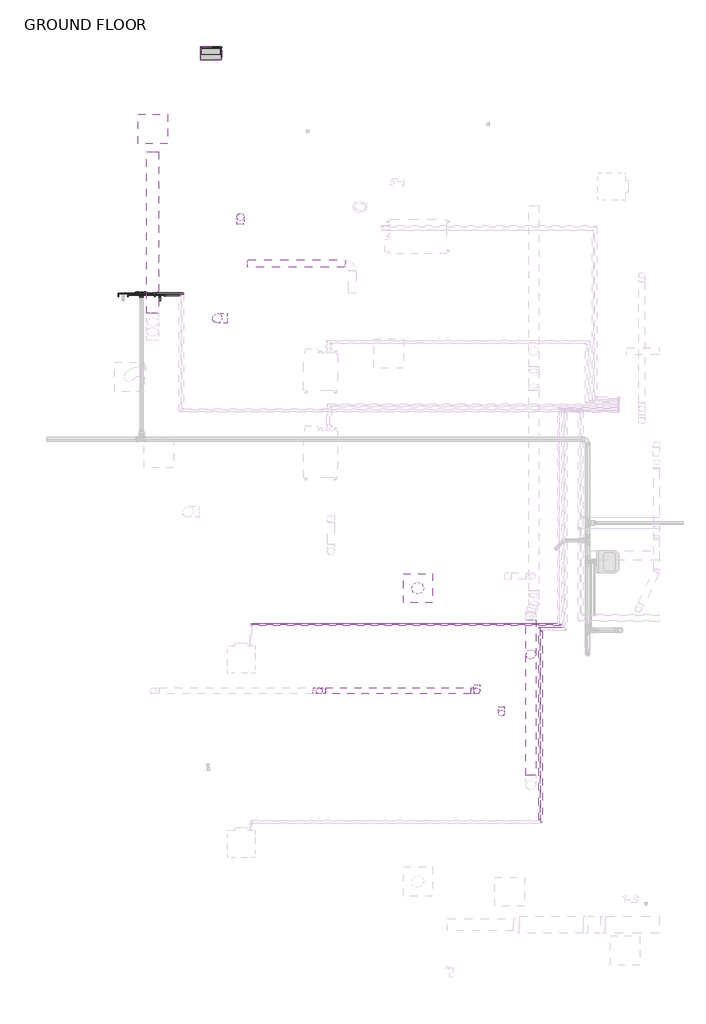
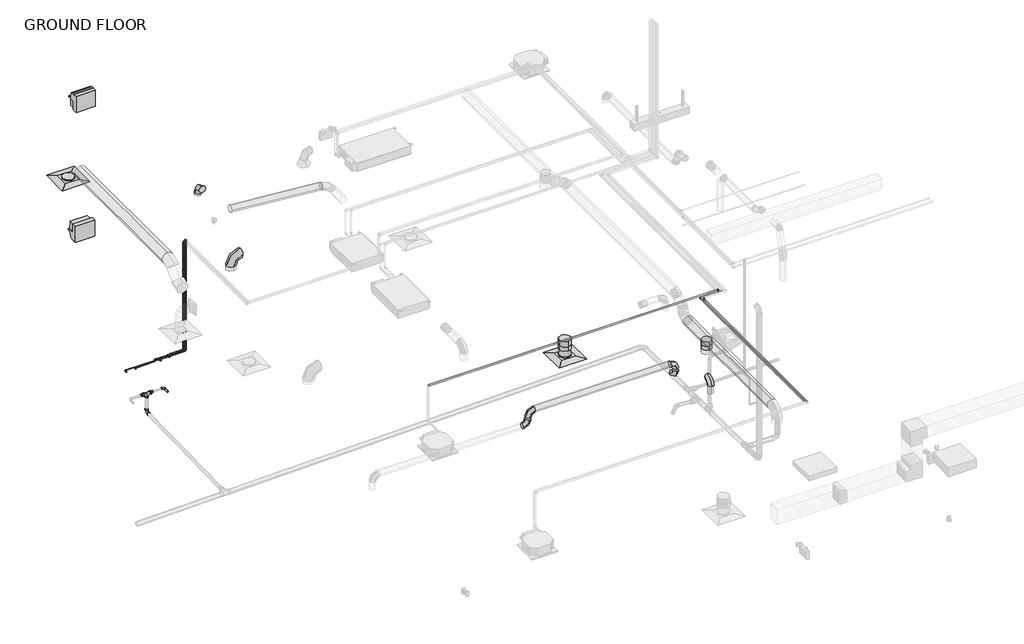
# One storey, part 11 of 22: 23 pipe fittings, 19 pipe segments, 11 duct segments, 9 duct fittings, 2 air terminals, 2 light fixtures.
"""IFC4 building model written with IfcOpenShell, lengths in millimetres."""

from ifc_helpers import new_model, si_unit, point, frame, frame_2d, origin, place, context, project, spatial, circle_curve, trimmed, segment, composite_curve, outline, extrude, transform, mapped, element, save
from components import air_terminal_a1f6e78c, round_elbow_1_d_a253342a, round_elbow_1_d_b37ad80b, round_elbow_1_d_c80420c1, round_takeoff_standard_37489045, round_takeoff_standard_1d5c4ba7, wall_pack_light_exterior_120v_ab60a804, bend_pvc_sch_40_dwv_standard_7031e9b3, bend_pvc_sch_40_dwv_standard_422c3456, bend_double_pvc_sch_40_dwv_standard_696d5b8f, elbow_generic_standard_787ffbaa, elbow_generic_standard_c06ac706, elbow_generic_standard_a088f956, reducer_pvc_sch_40_dwv_standard_1d7aeae1, reducer_pvc_sch_40_dwv_standard_ec22cfe8, tee_generic_standard_d345b28c, transition_generic_standard_19d9bb8b, transition_generic_standard_6299f23b

model = new_model("IFC4")

# Units and contexts
model_context = context("Model", 3, world=origin())
ifc_project = project(units=[si_unit("LENGTHUNIT", "METRE", prefix="MILLI")], contexts=[model_context])

# Site, building, storey
site = spatial("IfcSite", under=ifc_project)
building = spatial("IfcBuilding", under=site)
storey = spatial("IfcBuildingStorey", under=building, Name="GROUND FLOOR", Elevation=30480.0)

# Air terminals
placement = place(None, origin())
air_terminal_shape = air_terminal_a1f6e78c(model_context)
element("IfcAirTerminal", 1, ObjectType="Supply Diffuser - Rectangular Face Round Neck - Hosted : 24\"x24\" Face 10\" Neck - Hosted", at=placement, inside=storey, context=model_context, shape_type="MappedRepresentation", body=[
    mapped(air_terminal_shape, transform((-19120.4829607, 13294.7195005, 33020.0), x_axis=(-1.0, 0.0, 0.0), y_axis=(0.0, 1.0, 0.0), z_axis=(0.0, 0.0, -1.0))),
])
element("IfcAirTerminal", 2, ObjectType="Supply Diffuser - Rectangular Face Round Neck - Hosted : 24\"x24\" Face 10\" Neck - Hosted", at=placement, inside=storey, context=model_context, shape_type="MappedRepresentation", body=[
    mapped(air_terminal_shape, transform((-13605.5079607, 3749.0820005, 32715.2), x_axis=(-1.0, 0.0, 0.0), y_axis=(0.0, 1.0, 0.0), z_axis=(0.0, 0.0, -1.0))),
])

# Duct fittings
round_elbow_1_d_shape = round_elbow_1_d_a253342a(model_context)
element("IfcDuctFitting", 3, ObjectType="Round Elbow : 1 D", at=placement, inside=storey, context=model_context, shape_type="MappedRepresentation", body=[
    mapped(round_elbow_1_d_shape, transform((-17775.8704607, 9360.8945005, 33121.6), x_axis=(0.0, 0.0, 1.0), y_axis=(1.0, 0.0, 0.0), z_axis=(0.0, 1.0, 0.0))),
])
round_elbow_1_d_2_shape = round_elbow_1_d_b37ad80b(model_context)
element("IfcDuctFitting", 4, ObjectType="Round Elbow : 1 D", at=placement, inside=storey, context=model_context, shape_type="MappedRepresentation", body=[
    mapped(round_elbow_1_d_2_shape, transform((-17291.6829607, 11465.9195005, 33324.8), x_axis=(0.0, 0.0, 1.0), y_axis=(0.0, -1.0, 0.0), z_axis=(1.0, 0.0, 0.0))),
])
round_elbow_1_d_3_shape = round_elbow_1_d_c80420c1(model_context)
element("IfcDuctFitting", 5, ObjectType="Round Elbow : 1 D", at=placement, inside=storey, context=model_context, shape_type="MappedRepresentation", body=[
    mapped(round_elbow_1_d_3_shape, transform((-11866.4513201, 1153.5195005, 33121.6), x_axis=(0.0, 0.0, 1.0), y_axis=(0.0, 1.0, 0.0), z_axis=(-1.0, 0.0, 0.0))),
])
element("IfcDuctFitting", 6, ObjectType="Round Elbow : 1 D", at=placement, inside=storey, context=model_context, shape_type="MappedRepresentation", body=[
    mapped(round_elbow_1_d_3_shape, transform((-15656.5579607, 1613.8945005, 33121.6), x_axis=(1.0, 0.0, 0.0), y_axis=(0.0, 0.0, 1.0), z_axis=(0.0, -1.0, 0.0))),
])
element("IfcDuctFitting", 7, ObjectType="Round Elbow : 1 D", at=placement, inside=storey, context=model_context, shape_type="MappedRepresentation", body=[
    mapped(round_elbow_1_d_3_shape, transform((-15656.5579607, 1613.8945005, 33426.4), x_axis=(0.0, 0.0, 1.0), y_axis=(1.0, 0.0, 0.0), z_axis=(0.0, 1.0, 0.0))),
])
element("IfcDuctFitting", 8, ObjectType="Round Elbow : 1 D", at=placement, inside=storey, context=model_context, shape_type="MappedRepresentation", body=[
    mapped(round_elbow_1_d_3_shape, transform((-12379.8126806, 1613.8945005, 33426.4), x_axis=(1.0, 0.0, 0.0), y_axis=(0.0, 0.0, -1.0), z_axis=(0.0, 1.0, 0.0))),
])
element("IfcDuctFitting", 9, ObjectType="Round Elbow : 1 D", at=placement, inside=storey, context=model_context, shape_type="MappedRepresentation", body=[
    mapped(round_elbow_1_d_3_shape, transform((-12379.8126806, 1613.8945005, 33121.6), x_axis=(0.0, 0.0, -1.0), y_axis=(0.0, 1.0, 0.0), z_axis=(1.0, 0.0, 0.0))),
])
round_takeoff_standard_shape = round_takeoff_standard_37489045(model_context)
element("IfcDuctFitting", 10, ObjectType="Round Takeoff : Standard", at=placement, inside=storey, context=model_context, shape_type="MappedRepresentation", body=[
    mapped(round_takeoff_standard_shape, transform((-13605.5079607, 3749.0820005, 32998.8880493), x_axis=(0.0, 0.0, -1.0), y_axis=(1.0, 0.0, 0.0), z_axis=(0.0, -1.0, 0.0))),
])
round_takeoff_standard_2_shape = round_takeoff_standard_1d5c4ba7(model_context)
element("IfcDuctFitting", 11, ObjectType="Round Takeoff : Standard", at=placement, inside=storey, context=model_context, shape_type="MappedRepresentation", body=[
    mapped(round_takeoff_standard_2_shape, transform((-11256.8513201, 2372.7195005, 33020.0), x_axis=(0.0, 0.0, -1.0), y_axis=(0.0, -1.0, 0.0), z_axis=(-1.0, 0.0, 0.0))),
])

# Duct segments
element("IfcDuctSegment", 12, ObjectType="Taps / Short Radius", at=placement, inside=storey, context=model_context, shape_type="SweptSolid", body=[
    extrude(outline(composite_curve([segment(trimmed(circle_curve(frame_2d((-17775.8704607, 9360.8945005)), 101.6), [point((-17775.8704607, 9462.4945005))], [point((-17674.2704607, 9360.8945005))], False, "CARTESIAN"), True, "CONTINUOUS"), segment(trimmed(circle_curve(frame_2d((-17775.8704607, 9360.8945005)), 101.6), [point((-17674.2704607, 9360.8945005))], [point((-17775.8704607, 9259.2945005))], False, "CARTESIAN"), True, "CONTINUOUS"), segment(trimmed(circle_curve(frame_2d((-17775.8704607, 9360.8945005)), 101.6), [point((-17775.8704607, 9259.2945005))], [point((-17877.4704607, 9360.8945005))], False, "CARTESIAN"), True, "CONTINUOUS"), segment(trimmed(circle_curve(frame_2d((-17775.8704607, 9360.8945005)), 101.6), [point((-17877.4704607, 9360.8945005))], [point((-17775.8704607, 9462.4945005))], False, "CARTESIAN"), True, "CONTINUOUS")], self_intersect=False)), frame((0.0, 0.0, 32816.8), z_axis=(0.0, 0.0, 1.0), x_axis=(1.0, 0.0, 0.0)), (0.0, 0.0, 1.0), 101.6),
])
element("IfcDuctSegment", 13, ObjectType="Taps / Short Radius", at=placement, inside=storey, context=model_context, shape_type="SweptSolid", body=[
    extrude(outline(composite_curve([segment(trimmed(circle_curve(frame_2d((-17291.6829607, 11465.9195005)), 76.2), [point((-17367.8829607, 11465.9195005))], [point((-17291.6829607, 11542.1195005))], False, "CARTESIAN"), True, "CONTINUOUS"), segment(trimmed(circle_curve(frame_2d((-17291.6829607, 11465.9195005)), 76.2), [point((-17291.6829607, 11542.1195005))], [point((-17215.4829607, 11465.9195005))], False, "CARTESIAN"), True, "CONTINUOUS"), segment(trimmed(circle_curve(frame_2d((-17291.6829607, 11465.9195005)), 76.2), [point((-17215.4829607, 11465.9195005))], [point((-17291.6829607, 11389.7195005))], False, "CARTESIAN"), True, "CONTINUOUS"), segment(trimmed(circle_curve(frame_2d((-17291.6829607, 11465.9195005)), 76.2), [point((-17291.6829607, 11389.7195005))], [point((-17367.8829607, 11465.9195005))], False, "CARTESIAN"), True, "CONTINUOUS")], self_intersect=False)), frame((0.0, 0.0, 33121.6), z_axis=(0.0, 0.0, 1.0), x_axis=(1.0, 0.0, 0.0)), (0.0, 0.0, 1.0), 50.8),
])
element("IfcDuctSegment", 14, ObjectType="Taps / Short Radius", at=placement, inside=storey, context=model_context, shape_type="SweptSolid", body=[
    extrude(outline(composite_curve([segment(trimmed(circle_curve(frame_2d((-13605.5079607, 3749.0820005)), 127.0), [point((-13478.5079607, 3749.0820005))], [point((-13605.5079607, 3622.0820005))], False, "CARTESIAN"), True, "CONTINUOUS"), segment(trimmed(circle_curve(frame_2d((-13605.5079607, 3749.0820005)), 127.0), [point((-13605.5079607, 3622.0820005))], [point((-13732.5079607, 3749.0820005))], False, "CARTESIAN"), True, "CONTINUOUS"), segment(trimmed(circle_curve(frame_2d((-13605.5079607, 3749.0820005)), 127.0), [point((-13732.5079607, 3749.0820005))], [point((-13605.5079607, 3876.0820005))], False, "CARTESIAN"), True, "CONTINUOUS"), segment(trimmed(circle_curve(frame_2d((-13605.5079607, 3749.0820005)), 127.0), [point((-13605.5079607, 3876.0820005))], [point((-13478.5079607, 3749.0820005))], False, "CARTESIAN"), True, "CONTINUOUS")], self_intersect=False)), frame((0.0, 0.0, 32769.175), z_axis=(0.0, 0.0, 1.0), x_axis=(1.0, 0.0, 0.0)), (0.0, 0.0, 1.0), 128.1010851),
])
element("IfcDuctSegment", 15, ObjectType="Taps / Short Radius", at=placement, inside=storey, context=model_context, shape_type="SweptSolid", body=[
    extrude(outline(composite_curve([segment(trimmed(circle_curve(frame_2d((-11866.4513201, 1153.5195005)), 63.5), [point((-11802.9513201, 1153.5195005))], [point((-11866.4513201, 1090.0195005))], False, "CARTESIAN"), True, "CONTINUOUS"), segment(trimmed(circle_curve(frame_2d((-11866.4513201, 1153.5195005)), 63.5), [point((-11866.4513201, 1090.0195005))], [point((-11929.9513201, 1153.5195005))], False, "CARTESIAN"), True, "CONTINUOUS"), segment(trimmed(circle_curve(frame_2d((-11866.4513201, 1153.5195005)), 63.5), [point((-11929.9513201, 1153.5195005))], [point((-11866.4513201, 1217.0195005))], False, "CARTESIAN"), True, "CONTINUOUS"), segment(trimmed(circle_curve(frame_2d((-11866.4513201, 1153.5195005)), 63.5), [point((-11866.4513201, 1217.0195005))], [point((-11802.9513201, 1153.5195005))], False, "CARTESIAN"), True, "CONTINUOUS")], self_intersect=False)), frame((0.0, 0.0, 32816.8), z_axis=(0.0, 0.0, 1.0), x_axis=(1.0, 0.0, 0.0)), (0.0, 0.0, 1.0), 177.8),
])
element("IfcDuctSegment", 16, ObjectType="Taps / Short Radius", at=placement, inside=storey, context=model_context, shape_type="SweptSolid", body=[
    extrude(outline(composite_curve([segment(trimmed(circle_curve(frame_2d((-15656.5579607, 1613.8945005)), 63.5), [point((-15656.5579607, 1550.3945005))], [point((-15720.0579607, 1613.8945005))], False, "CARTESIAN"), True, "CONTINUOUS"), segment(trimmed(circle_curve(frame_2d((-15656.5579607, 1613.8945005)), 63.5), [point((-15720.0579607, 1613.8945005))], [point((-15656.5579607, 1677.3945005))], False, "CARTESIAN"), True, "CONTINUOUS"), segment(trimmed(circle_curve(frame_2d((-15656.5579607, 1613.8945005)), 63.5), [point((-15656.5579607, 1677.3945005))], [point((-15593.0579607, 1613.8945005))], False, "CARTESIAN"), True, "CONTINUOUS"), segment(trimmed(circle_curve(frame_2d((-15656.5579607, 1613.8945005)), 63.5), [point((-15593.0579607, 1613.8945005))], [point((-15656.5579607, 1550.3945005))], False, "CARTESIAN"), True, "CONTINUOUS")], self_intersect=False)), frame((0.0, 0.0, 33248.6), z_axis=(0.0, 0.0, 1.0), x_axis=(1.0, 0.0, 0.0)), (0.0, 0.0, 1.0), 50.8),
])
element("IfcDuctSegment", 17, ObjectType="Taps / Short Radius", at=placement, inside=storey, context=model_context, shape_type="SweptSolid", body=[
    extrude(outline(composite_curve([segment(trimmed(circle_curve(frame_2d((1613.8945005, 33426.4)), 63.5), [point((1550.3945005, 33426.4))], [point((1613.8945005, 33489.9))], False, "CARTESIAN"), True, "CONTINUOUS"), segment(trimmed(circle_curve(frame_2d((1613.8945005, 33426.4)), 63.5), [point((1613.8945005, 33489.9))], [point((1677.3945005, 33426.4))], False, "CARTESIAN"), True, "CONTINUOUS"), segment(trimmed(circle_curve(frame_2d((1613.8945005, 33426.4)), 63.5), [point((1677.3945005, 33426.4))], [point((1613.8945005, 33362.9))], False, "CARTESIAN"), True, "CONTINUOUS"), segment(trimmed(circle_curve(frame_2d((1613.8945005, 33426.4)), 63.5), [point((1613.8945005, 33362.9))], [point((1550.3945005, 33426.4))], False, "CARTESIAN"), True, "CONTINUOUS")], self_intersect=False)), frame((-15529.5579607, 0.0, 0.0), z_axis=(1.0, 0.0, 0.0), x_axis=(0.0, 1.0, 0.0)), (0.0, 0.0, 1.0), 3022.7452801),
])
element("IfcDuctSegment", 18, ObjectType="Taps / Short Radius", at=placement, inside=storey, context=model_context, shape_type="SweptSolid", body=[
    extrude(outline(composite_curve([segment(trimmed(circle_curve(frame_2d((-12379.8126806, 1613.8945005)), 63.5), [point((-12379.8126806, 1677.3945005))], [point((-12316.3126806, 1613.8945005))], False, "CARTESIAN"), True, "CONTINUOUS"), segment(trimmed(circle_curve(frame_2d((-12379.8126806, 1613.8945005)), 63.5), [point((-12316.3126806, 1613.8945005))], [point((-12379.8126806, 1550.3945005))], False, "CARTESIAN"), True, "CONTINUOUS"), segment(trimmed(circle_curve(frame_2d((-12379.8126806, 1613.8945005)), 63.5), [point((-12379.8126806, 1550.3945005))], [point((-12443.3126806, 1613.8945005))], False, "CARTESIAN"), True, "CONTINUOUS"), segment(trimmed(circle_curve(frame_2d((-12379.8126806, 1613.8945005)), 63.5), [point((-12443.3126806, 1613.8945005))], [point((-12379.8126806, 1677.3945005))], False, "CARTESIAN"), True, "CONTINUOUS")], self_intersect=False)), frame((0.0, 0.0, 33248.6), z_axis=(0.0, 0.0, 1.0), x_axis=(1.0, 0.0, 0.0)), (0.0, 0.0, 1.0), 50.8),
])
element("IfcDuctSegment", 19, ObjectType="Taps / Short Radius", at=placement, inside=storey, context=model_context, shape_type="SweptSolid", body=[
    extrude(outline(composite_curve([segment(trimmed(circle_curve(frame_2d((-11256.8513201, 2372.7195005)), 101.6), [point((-11256.8513201, 2474.3195005))], [point((-11155.2513201, 2372.7195005))], False, "CARTESIAN"), True, "CONTINUOUS"), segment(trimmed(circle_curve(frame_2d((-11256.8513201, 2372.7195005)), 101.6), [point((-11155.2513201, 2372.7195005))], [point((-11256.8513201, 2271.1195005))], False, "CARTESIAN"), True, "CONTINUOUS"), segment(trimmed(circle_curve(frame_2d((-11256.8513201, 2372.7195005)), 101.6), [point((-11256.8513201, 2271.1195005))], [point((-11358.4513201, 2372.7195005))], False, "CARTESIAN"), True, "CONTINUOUS"), segment(trimmed(circle_curve(frame_2d((-11256.8513201, 2372.7195005)), 101.6), [point((-11358.4513201, 2372.7195005))], [point((-11256.8513201, 2474.3195005))], False, "CARTESIAN"), True, "CONTINUOUS")], self_intersect=False)), frame((0.0, 0.0, 32816.8), z_axis=(0.0, 0.0, 1.0), x_axis=(1.0, 0.0, 0.0)), (0.0, 0.0, 1.0), 101.6),
])
element("IfcDuctSegment", 20, ObjectType="Taps / Short Radius", at=placement, inside=storey, context=model_context, shape_type="SweptSolid", body=[
    extrude(outline(composite_curve([segment(trimmed(circle_curve(frame_2d((33121.6, -11256.8513201)), 101.6), [point((33121.6, -11358.4513201))], [point((33020.0, -11256.8513201))], False, "CARTESIAN"), True, "CONTINUOUS"), segment(trimmed(circle_curve(frame_2d((33121.6, -11256.8513201)), 101.6), [point((33020.0, -11256.8513201))], [point((33121.6, -11155.2513201))], False, "CARTESIAN"), True, "CONTINUOUS"), segment(trimmed(circle_curve(frame_2d((33121.6, -11256.8513201)), 101.6), [point((33121.6, -11155.2513201))], [point((33223.2, -11256.8513201))], False, "CARTESIAN"), True, "CONTINUOUS"), segment(trimmed(circle_curve(frame_2d((33121.6, -11256.8513201)), 101.6), [point((33223.2, -11256.8513201))], [point((33121.6, -11358.4513201))], False, "CARTESIAN"), True, "CONTINUOUS")], self_intersect=False)), frame((0.0, -138.7054995, 0.0), z_axis=(0.0, 1.0, 0.0), x_axis=(0.0, 0.0, 1.0)), (0.0, 0.0, 1.0), 3230.7156235),
])
element("IfcDuctSegment", 21, ObjectType="Taps / Short Radius", at=placement, inside=storey, context=model_context, shape_type="SweptSolid", body=[
    extrude(outline(composite_curve([segment(trimmed(circle_curve(frame_2d((0.0, -76.2)), 76.2), [point((0.0, -152.4))], [point((-76.2000001, -76.2))], False, "CARTESIAN"), True, "CONTINUOUS"), segment(trimmed(circle_curve(frame_2d((0.0, -76.2)), 76.2), [point((-76.2000001, -76.2))], [point((0.0, 0.0))], False, "CARTESIAN"), True, "CONTINUOUS"), segment(trimmed(circle_curve(frame_2d((0.0, -76.2)), 76.2), [point((0.0, 0.0))], [point((76.2, -76.2))], False, "CARTESIAN"), True, "CONTINUOUS"), segment(trimmed(circle_curve(frame_2d((0.0, -76.2)), 76.2), [point((76.2, -76.2))], [point((0.0, -152.4))], False, "CARTESIAN"), True, "CONTINUOUS")], self_intersect=False)), frame((-15121.8533092, 10574.5395797, 33134.8878573), z_axis=(-0.9961916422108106, 0.0, 0.0871906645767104), x_axis=(0.0871906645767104, 0.0, 0.9961916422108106)), (0.0, 0.0, 1.0), 2025.7247298),
])
element("IfcDuctSegment", 22, ObjectType="Taps / Short Radius", at=placement, inside=storey, context=model_context, shape_type="SweptSolid", body=[
    extrude(outline(composite_curve([segment(trimmed(circle_curve(frame_2d((33477.2, -19120.4829607)), 127.0), [point((33477.2, -18993.4829607))], [point((33604.2, -19120.4829607))], False, "CARTESIAN"), True, "CONTINUOUS"), segment(trimmed(circle_curve(frame_2d((33477.2, -19120.4829607)), 127.0), [point((33604.2, -19120.4829607))], [point((33477.2, -19247.4829607))], False, "CARTESIAN"), True, "CONTINUOUS"), segment(trimmed(circle_curve(frame_2d((33477.2, -19120.4829607)), 127.0), [point((33477.2, -19247.4829607))], [point((33350.2, -19120.4829607))], False, "CARTESIAN"), True, "CONTINUOUS"), segment(trimmed(circle_curve(frame_2d((33477.2, -19120.4829607)), 127.0), [point((33350.2, -19120.4829607))], [point((33477.2, -18993.4829607))], False, "CARTESIAN"), True, "CONTINUOUS")], self_intersect=False)), frame((0.0, 9460.0506372, 0.0), z_axis=(0.0, 1.0, 0.0), x_axis=(0.0, 0.0, 1.0)), (0.0, 0.0, 1.0), 3355.4014425),
])

# Light fixtures
wall_pack_light_exterior_120v_shape = wall_pack_light_exterior_120v_ab60a804(model_context)
element("IfcLightFixture", 23, ObjectType="Wall Pack Light - Exterior : 120V", at=placement, inside=storey, context=model_context, shape_type="MappedRepresentation", body=[
    mapped(wall_pack_light_exterior_120v_shape, transform((-17898.7780905, 14736.1695005, 33528.0), x_axis=(-1.0, 0.0, 0.0), y_axis=(0.0, 0.0, 1.0), z_axis=(0.0, 1.0, 0.0))),
])
element("IfcLightFixture", 24, ObjectType="Wall Pack Light - Exterior : 120V", at=placement, inside=storey, context=model_context, shape_type="MappedRepresentation", body=[
    mapped(wall_pack_light_exterior_120v_shape, transform((-17912.4546782, 14736.1695005, 30480.0), x_axis=(1.0, 0.0, 0.0), y_axis=(0.0, 0.0, -1.0), z_axis=(0.0, 1.0, 0.0))),
])

# Pipe fittings
bend_pvc_sch_40_dwv_standard_shape = bend_pvc_sch_40_dwv_standard_7031e9b3(model_context)
element("IfcPipeFitting", 25, ObjectType="Bend - PVC - Sch 40 - DWV : Standard", at=placement, inside=storey, context=model_context, shape_type="MappedRepresentation", body=[
    mapped(bend_pvc_sch_40_dwv_standard_shape, transform((-18972.699993, 9873.9042449, 30124.4), x_axis=(0.0, 1.0, 0.0), y_axis=(-1.0, 0.0, 0.0), z_axis=(0.0, 0.0, 1.0))),
])
bend_pvc_sch_40_dwv_standard_2_shape = bend_pvc_sch_40_dwv_standard_422c3456(model_context)
element("IfcPipeFitting", 26, ObjectType="Bend - PVC - Sch 40 - DWV : Standard", at=placement, inside=storey, context=model_context, shape_type="MappedRepresentation", body=[
    mapped(bend_pvc_sch_40_dwv_standard_2_shape, transform((-19353.7884265, 9873.9042449, 29692.947339), x_axis=(0.0, 0.0, -1.0), y_axis=(0.0, -1.0, 0.0), z_axis=(-1.0, 0.0, 0.0))),
])
bend_double_pvc_sch_40_dwv_standard_shape = bend_double_pvc_sch_40_dwv_standard_696d5b8f(model_context)
element("IfcPipeFitting", 27, ObjectType="Bend Double - PVC - Sch 40 - DWV : Standard", at=placement, inside=storey, context=model_context, shape_type="MappedRepresentation", body=[
    mapped(bend_double_pvc_sch_40_dwv_standard_shape, transform((-19353.7484822, 9873.9042449, 30124.4), x_axis=(-1.0, 0.0, 0.0), y_axis=(0.0, 0.0, 1.0), z_axis=(0.0, 1.0, 0.0))),
])
elbow_generic_standard_shape = elbow_generic_standard_787ffbaa(model_context)
element("IfcPipeFitting", 28, ObjectType="Elbow - Generic : Standard", at=placement, inside=storey, context=model_context, shape_type="MappedRepresentation", body=[
    mapped(elbow_generic_standard_shape, transform((-19633.2454607, 9844.2892607, 30835.6), x_axis=(-1.0, 0.0, 0.0), y_axis=(0.0, -0.9999999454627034, 0.0003302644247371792), z_axis=(0.0, 0.0003302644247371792, 0.9999999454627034))),
])
element("IfcPipeFitting", 29, ObjectType="Elbow - Generic : Standard", at=placement, inside=storey, context=model_context, shape_type="MappedRepresentation", body=[
    mapped(elbow_generic_standard_shape, transform((-19201.4454607, 9844.2892607, 30835.6), x_axis=(1.0, 0.0, 0.0), y_axis=(0.0, 0.0, 1.0), z_axis=(0.0, -1.0, 0.0))),
])
element("IfcPipeFitting", 30, ObjectType="Elbow - Generic : Standard", at=placement, inside=storey, context=model_context, shape_type="MappedRepresentation", body=[
    mapped(elbow_generic_standard_shape, transform((-19201.4454607, 9844.2892607, 30886.4), x_axis=(0.0, 0.0, 1.0), y_axis=(1.0, 0.0, 0.0), z_axis=(0.0, 1.0, 0.0))),
])
element("IfcPipeFitting", 31, ObjectType="Elbow - Generic : Standard", at=placement, inside=storey, context=model_context, shape_type="MappedRepresentation", body=[
    mapped(elbow_generic_standard_shape, transform((-18871.1484822, 9844.2892607, 30835.6), x_axis=(0.0, 0.0, -1.0), y_axis=(0.0, -1.0, 0.0), z_axis=(-1.0, 0.0, 0.0))),
])
elbow_generic_standard_2_shape = elbow_generic_standard_c06ac706(model_context)
element("IfcPipeFitting", 32, ObjectType="Elbow - Generic : Standard", at=placement, inside=storey, context=model_context, shape_type="MappedRepresentation", body=[
    mapped(elbow_generic_standard_2_shape, transform((-10635.1515455, 2984.2674809, 33680.4), x_axis=(1.0, 0.0, 0.0), y_axis=(0.0, 1.0, 0.0), z_axis=(0.0, 0.0, 1.0))),
])
element("IfcPipeFitting", 33, ObjectType="Elbow - Generic : Standard", at=placement, inside=storey, context=model_context, shape_type="MappedRepresentation", body=[
    mapped(elbow_generic_standard_2_shape, transform((-11032.9642107, 2875.8543566, 33680.4), x_axis=(-1.0, 0.0, 0.0), y_axis=(0.0, -1.0, 0.0), z_axis=(0.0, 0.0, 1.0))),
])
element("IfcPipeFitting", 34, ObjectType="Elbow - Generic : Standard", at=placement, inside=storey, context=model_context, shape_type="MappedRepresentation", body=[
    mapped(elbow_generic_standard_2_shape, transform((-18495.0079607, 9873.2718518, 33436.8475147), x_axis=(0.0, 1.0, 0.0), y_axis=(0.0, 0.0, -1.0), z_axis=(-1.0, 0.0, 0.0))),
])
element("IfcPipeFitting", 35, ObjectType="Elbow - Generic : Standard", at=placement, inside=storey, context=model_context, shape_type="MappedRepresentation", body=[
    mapped(elbow_generic_standard_2_shape, transform((-18552.1579607, 9844.2892607, 33436.8475147), x_axis=(0.0, 1.0, 0.0), y_axis=(0.0, 0.0, -1.0), z_axis=(-1.0, 0.0, 0.0))),
])
element("IfcPipeFitting", 36, ObjectType="Elbow - Generic : Standard", at=placement, inside=storey, context=model_context, shape_type="MappedRepresentation", body=[
    mapped(elbow_generic_standard_2_shape, transform((-18552.1579607, 9844.2892607, 30886.4), x_axis=(0.0, 0.0, -1.0), y_axis=(-1.0, 0.0, 0.0), z_axis=(0.0, 1.0, 0.0))),
])
element("IfcPipeFitting", 37, ObjectType="Elbow - Generic : Standard", at=placement, inside=storey, context=model_context, shape_type="MappedRepresentation", body=[
    mapped(elbow_generic_standard_2_shape, transform((-18495.0079607, 9873.2718518, 30835.6), x_axis=(0.0, 0.0, -1.0), y_axis=(-1.0, 0.0, 0.0), z_axis=(0.0, 1.0, 0.0))),
])
elbow_generic_standard_3_shape = elbow_generic_standard_a088f956(model_context)
element("IfcPipeFitting", 38, ObjectType="Elbow - Generic : Standard", at=placement, inside=storey, context=model_context, shape_type="MappedRepresentation", body=[
    mapped(elbow_generic_standard_3_shape, transform((-11080.664993, 2930.0843297, 33680.4), x_axis=(-1.0, 0.0, 0.0), y_axis=(0.0, -1.0, 0.0), z_axis=(0.0, 0.0, 1.0))),
])
element("IfcPipeFitting", 39, ObjectType="Elbow - Generic : Standard", at=placement, inside=storey, context=model_context, shape_type="MappedRepresentation", body=[
    mapped(elbow_generic_standard_3_shape, transform((-19836.4454607, 9873.2718518, 30835.6), x_axis=(-1.0, 0.0, 0.0), y_axis=(0.0, -1.0, 0.0), z_axis=(0.0, 0.0, 1.0))),
])
reducer_pvc_sch_40_dwv_standard_shape = reducer_pvc_sch_40_dwv_standard_1d7aeae1(model_context)
element("IfcPipeFitting", 40, ObjectType="Reducer - PVC - Sch 40 - DWV : Standard", at=placement, inside=storey, context=model_context, shape_type="MappedRepresentation", body=[
    mapped(reducer_pvc_sch_40_dwv_standard_shape, transform((-19275.9482822, 9873.9042449, 30124.4), x_axis=(1.0, 0.0, 0.0), y_axis=(0.0, 1.0, 0.0), z_axis=(0.0, 0.0, 1.0))),
])
reducer_pvc_sch_40_dwv_standard_2_shape = reducer_pvc_sch_40_dwv_standard_ec22cfe8(model_context)
element("IfcPipeFitting", 41, ObjectType="Reducer - PVC - Sch 40 - DWV : Standard", at=placement, inside=storey, context=model_context, shape_type="MappedRepresentation", body=[
    mapped(reducer_pvc_sch_40_dwv_standard_2_shape, transform((-19431.5486822, 9873.9042449, 30124.4), x_axis=(-1.0, 0.0, 0.0), y_axis=(0.0, -1.0, 0.0), z_axis=(0.0, 0.0, 1.0))),
])
tee_generic_standard_shape = tee_generic_standard_d345b28c(model_context)
element("IfcPipeFitting", 42, ObjectType="Tee - Generic : Standard", at=placement, inside=storey, context=model_context, shape_type="MappedRepresentation", body=[
    mapped(tee_generic_standard_shape, transform((-19074.3484822, 9873.2718518, 30835.6), x_axis=(1.0, 0.0, 0.0), y_axis=(0.0, 1.0, 0.0), z_axis=(0.0, 0.0, 1.0))),
])
element("IfcPipeFitting", 43, ObjectType="Tee - Generic : Standard", at=placement, inside=storey, context=model_context, shape_type="MappedRepresentation", body=[
    mapped(tee_generic_standard_shape, transform((-18871.1484822, 9844.2892607, 30886.4), x_axis=(1.0, 0.0, 0.0), y_axis=(0.0, 0.0, 1.0), z_axis=(0.0, -1.0, 0.0))),
])
transition_generic_standard_shape = transition_generic_standard_19d9bb8b(model_context)
element("IfcPipeFitting", 44, ObjectType="Transition - Generic : Standard", at=placement, inside=storey, context=model_context, shape_type="MappedRepresentation", body=[
    mapped(transition_generic_standard_shape, transform((-19101.3359822, 9873.2718518, 30835.6), x_axis=(-1.0, 0.0, 0.0), y_axis=(0.0, -1.0, 0.0), z_axis=(0.0, 0.0, 1.0))),
])
element("IfcPipeFitting", 45, ObjectType="Transition - Generic : Standard", at=placement, inside=storey, context=model_context, shape_type="MappedRepresentation", body=[
    mapped(transition_generic_standard_shape, transform((-19074.3484822, 9846.2843518, 30835.6), x_axis=(0.0, -1.0, 0.0), y_axis=(1.0, 0.0, 0.0), z_axis=(0.0, 0.0, 1.0))),
])
transition_generic_standard_2_shape = transition_generic_standard_6299f23b(model_context)
element("IfcPipeFitting", 46, ObjectType="Transition - Generic : Standard", at=placement, inside=storey, context=model_context, shape_type="MappedRepresentation", body=[
    mapped(transition_generic_standard_2_shape, transform((-18898.1359822, 9844.2892607, 30886.4), x_axis=(-1.0, 0.0, 0.0), y_axis=(0.0, -1.0, 0.0), z_axis=(0.0, 0.0, 1.0))),
])
element("IfcPipeFitting", 47, ObjectType="Transition - Generic : Standard", at=placement, inside=storey, context=model_context, shape_type="MappedRepresentation", body=[
    mapped(transition_generic_standard_2_shape, transform((-18871.1484822, 9844.2892607, 30859.4125), x_axis=(0.0, 0.0, -1.0), y_axis=(1.0, 0.0, 0.0), z_axis=(0.0, -1.0, 0.0))),
])

# Pipe segments
element("IfcPipeSegment", 48, ObjectType="Copper Tubing", at=placement, inside=storey, context=model_context, shape_type="SweptSolid", body=[
    extrude(outline(composite_curve([segment(trimmed(circle_curve(frame_2d((3013.8265677, 33680.4)), 7.9375), [point((3005.8890677, 33680.4))], [point((3013.8265677, 33688.3375))], False, "CARTESIAN"), True, "CONTINUOUS"), segment(trimmed(circle_curve(frame_2d((3013.8265677, 33680.4)), 7.9375), [point((3013.8265677, 33688.3375))], [point((3021.7640677, 33680.4))], False, "CARTESIAN"), True, "CONTINUOUS"), segment(trimmed(circle_curve(frame_2d((3013.8265677, 33680.4)), 7.9375), [point((3021.7640677, 33680.4))], [point((3013.8265677, 33672.4625))], False, "CARTESIAN"), True, "CONTINUOUS"), segment(trimmed(circle_curve(frame_2d((3013.8265677, 33680.4)), 7.9375), [point((3013.8265677, 33672.4625))], [point((3005.8890677, 33680.4))], False, "CARTESIAN"), True, "CONTINUOUS")], self_intersect=False)), frame((-17060.7017107, 0.0, 0.0), z_axis=(1.0, 0.0, 0.0), x_axis=(0.0, 1.0, 0.0)), (0.0, 0.0, 1.0), 6363.6376652),
])
element("IfcPipeSegment", 49, ObjectType="Copper Tubing", at=placement, inside=storey, context=model_context, shape_type="SweptSolid", body=[
    extrude(outline(composite_curve([segment(trimmed(circle_curve(frame_2d((2984.2674809, 33680.4)), 14.2875), [point((2969.9799809, 33680.4))], [point((2984.2674809, 33694.6875))], False, "CARTESIAN"), True, "CONTINUOUS"), segment(trimmed(circle_curve(frame_2d((2984.2674809, 33680.4)), 14.2875), [point((2984.2674809, 33694.6875))], [point((2998.5549809, 33680.4))], False, "CARTESIAN"), True, "CONTINUOUS"), segment(trimmed(circle_curve(frame_2d((2984.2674809, 33680.4)), 14.2875), [point((2998.5549809, 33680.4))], [point((2984.2674809, 33666.1125))], False, "CARTESIAN"), True, "CONTINUOUS"), segment(trimmed(circle_curve(frame_2d((2984.2674809, 33680.4)), 14.2875), [point((2984.2674809, 33666.1125))], [point((2969.9799809, 33680.4))], False, "CARTESIAN"), True, "CONTINUOUS")], self_intersect=False)), frame((-17057.5267107, 0.0, 0.0), z_axis=(1.0, 0.0, 0.0), x_axis=(0.0, 1.0, 0.0)), (0.0, 0.0, 1.0), 6401.7376652),
])
element("IfcPipeSegment", 50, ObjectType="Copper Tubing", at=placement, inside=storey, context=model_context, shape_type="SweptSolid", body=[
    extrude(outline(composite_curve([segment(trimmed(circle_curve(frame_2d((33680.4, -11080.664993)), 7.9375), [point((33680.4, -11072.727493))], [point((33688.3375, -11080.664993))], False, "CARTESIAN"), True, "CONTINUOUS"), segment(trimmed(circle_curve(frame_2d((33680.4, -11080.664993)), 7.9375), [point((33688.3375, -11080.664993))], [point((33680.4, -11088.602493))], False, "CARTESIAN"), True, "CONTINUOUS"), segment(trimmed(circle_curve(frame_2d((33680.4, -11080.664993)), 7.9375), [point((33680.4, -11088.602493))], [point((33672.4625, -11080.664993))], False, "CARTESIAN"), True, "CONTINUOUS"), segment(trimmed(circle_curve(frame_2d((33680.4, -11080.664993)), 7.9375), [point((33672.4625, -11080.664993))], [point((33680.4, -11072.727493))], False, "CARTESIAN"), True, "CONTINUOUS")], self_intersect=False)), frame((0.0, -1068.8281703, 0.0), z_axis=(0.0, 1.0, 0.0), x_axis=(0.0, 0.0, 1.0)), (0.0, 0.0, 1.0), 3984.625),
])
element("IfcPipeSegment", 51, ObjectType="Copper Tubing", at=placement, inside=storey, context=model_context, shape_type="SweptSolid", body=[
    extrude(outline(composite_curve([segment(trimmed(circle_curve(frame_2d((2930.0843297, 33680.4)), 7.9375), [point((2922.1468297, 33680.4))], [point((2930.0843297, 33688.3375))], False, "CARTESIAN"), True, "CONTINUOUS"), segment(trimmed(circle_curve(frame_2d((2930.0843297, 33680.4)), 7.9375), [point((2930.0843297, 33688.3375))], [point((2938.0218297, 33680.4))], False, "CARTESIAN"), True, "CONTINUOUS"), segment(trimmed(circle_curve(frame_2d((2930.0843297, 33680.4)), 7.9375), [point((2938.0218297, 33680.4))], [point((2930.0843297, 33672.4625))], False, "CARTESIAN"), True, "CONTINUOUS"), segment(trimmed(circle_curve(frame_2d((2930.0843297, 33680.4)), 7.9375), [point((2930.0843297, 33672.4625))], [point((2922.1468297, 33680.4))], False, "CARTESIAN"), True, "CONTINUOUS")], self_intersect=False)), frame((-11066.377493, 0.0, 0.0), z_axis=(1.0, 0.0, 0.0), x_axis=(0.0, 1.0, 0.0)), (0.0, 0.0, 1.0), 479.5007823),
])
element("IfcPipeSegment", 52, ObjectType="Copper Tubing", at=placement, inside=storey, context=model_context, shape_type="SweptSolid", body=[
    extrude(outline(composite_curve([segment(trimmed(circle_curve(frame_2d((33680.4, -11032.9642107)), 14.2875), [point((33680.4, -11018.6767107))], [point((33694.6875, -11032.9642107))], False, "CARTESIAN"), True, "CONTINUOUS"), segment(trimmed(circle_curve(frame_2d((33680.4, -11032.9642107)), 14.2875), [point((33694.6875, -11032.9642107))], [point((33680.4, -11047.2517107))], False, "CARTESIAN"), True, "CONTINUOUS"), segment(trimmed(circle_curve(frame_2d((33680.4, -11032.9642107)), 14.2875), [point((33680.4, -11047.2517107))], [point((33666.1125, -11032.9642107))], False, "CARTESIAN"), True, "CONTINUOUS"), segment(trimmed(circle_curve(frame_2d((33680.4, -11032.9642107)), 14.2875), [point((33666.1125, -11032.9642107))], [point((33680.4, -11018.6767107))], False, "CARTESIAN"), True, "CONTINUOUS")], self_intersect=False)), frame((0.0, -1116.7081434, 0.0), z_axis=(0.0, 1.0, 0.0), x_axis=(0.0, 0.0, 1.0)), (0.0, 0.0, 1.0), 3971.925),
])
element("IfcPipeSegment", 53, ObjectType="Copper Tubing", at=placement, inside=storey, context=model_context, shape_type="SweptSolid", body=[
    extrude(outline(composite_curve([segment(trimmed(circle_curve(frame_2d((9873.2718518, 30835.6)), 14.2875), [point((9887.5593518, 30835.6))], [point((9873.2718518, 30821.3125))], False, "CARTESIAN"), True, "CONTINUOUS"), segment(trimmed(circle_curve(frame_2d((9873.2718518, 30835.6)), 14.2875), [point((9873.2718518, 30821.3125))], [point((9858.9843518, 30835.6))], False, "CARTESIAN"), True, "CONTINUOUS"), segment(trimmed(circle_curve(frame_2d((9873.2718518, 30835.6)), 14.2875), [point((9858.9843518, 30835.6))], [point((9873.2718518, 30849.8875))], False, "CARTESIAN"), True, "CONTINUOUS"), segment(trimmed(circle_curve(frame_2d((9873.2718518, 30835.6)), 14.2875), [point((9873.2718518, 30849.8875))], [point((9887.5593518, 30835.6))], False, "CARTESIAN"), True, "CONTINUOUS")], self_intersect=False)), frame((-19047.3609822, 0.0, 0.0), z_axis=(1.0, 0.0, 0.0), x_axis=(0.0, 1.0, 0.0)), (0.0, 0.0, 1.0), 531.7155215),
])
element("IfcPipeSegment", 54, ObjectType="Copper Tubing", at=placement, inside=storey, context=model_context, shape_type="SweptSolid", body=[
    extrude(outline(composite_curve([segment(trimmed(circle_curve(frame_2d((-18495.0079607, 9873.2718518)), 14.2875), [point((-18480.7204607, 9873.2718518))], [point((-18495.0079607, 9858.9843518))], False, "CARTESIAN"), True, "CONTINUOUS"), segment(trimmed(circle_curve(frame_2d((-18495.0079607, 9873.2718518)), 14.2875), [point((-18495.0079607, 9858.9843518))], [point((-18509.2954607, 9873.2718518))], False, "CARTESIAN"), True, "CONTINUOUS"), segment(trimmed(circle_curve(frame_2d((-18495.0079607, 9873.2718518)), 14.2875), [point((-18509.2954607, 9873.2718518))], [point((-18495.0079607, 9887.5593518))], False, "CARTESIAN"), True, "CONTINUOUS"), segment(trimmed(circle_curve(frame_2d((-18495.0079607, 9873.2718518)), 14.2875), [point((-18495.0079607, 9887.5593518))], [point((-18480.7204607, 9873.2718518))], False, "CARTESIAN"), True, "CONTINUOUS")], self_intersect=False)), frame((0.0, 0.0, 30856.2375), z_axis=(0.0, 0.0, 1.0), x_axis=(1.0, 0.0, 0.0)), (0.0, 0.0, 1.0), 2559.9725147),
])
element("IfcPipeSegment", 55, ObjectType="Copper Tubing", at=placement, inside=storey, context=model_context, shape_type="SweptSolid", body=[
    extrude(outline(composite_curve([segment(trimmed(circle_curve(frame_2d((-18552.1579607, 9844.2892607)), 14.2875), [point((-18537.8704607, 9844.2892607))], [point((-18552.1579607, 9830.0017607))], False, "CARTESIAN"), True, "CONTINUOUS"), segment(trimmed(circle_curve(frame_2d((-18552.1579607, 9844.2892607)), 14.2875), [point((-18552.1579607, 9830.0017607))], [point((-18566.4454607, 9844.2892607))], False, "CARTESIAN"), True, "CONTINUOUS"), segment(trimmed(circle_curve(frame_2d((-18552.1579607, 9844.2892607)), 14.2875), [point((-18566.4454607, 9844.2892607))], [point((-18552.1579607, 9858.5767607))], False, "CARTESIAN"), True, "CONTINUOUS"), segment(trimmed(circle_curve(frame_2d((-18552.1579607, 9844.2892607)), 14.2875), [point((-18552.1579607, 9858.5767607))], [point((-18537.8704607, 9844.2892607))], False, "CARTESIAN"), True, "CONTINUOUS")], self_intersect=False)), frame((0.0, 0.0, 30907.0375), z_axis=(0.0, 0.0, 1.0), x_axis=(1.0, 0.0, 0.0)), (0.0, 0.0, 1.0), 2509.1725147),
])
element("IfcPipeSegment", 56, ObjectType="Copper Tubing", at=placement, inside=storey, context=model_context, shape_type="SweptSolid", body=[
    extrude(outline(composite_curve([segment(trimmed(circle_curve(frame_2d((30835.6, -19836.4454607)), 7.9375), [point((30835.6, -19828.5079607))], [point((30843.5375, -19836.4454607))], False, "CARTESIAN"), True, "CONTINUOUS"), segment(trimmed(circle_curve(frame_2d((30835.6, -19836.4454607)), 7.9375), [point((30843.5375, -19836.4454607))], [point((30835.6, -19844.3829607))], False, "CARTESIAN"), True, "CONTINUOUS"), segment(trimmed(circle_curve(frame_2d((30835.6, -19836.4454607)), 7.9375), [point((30835.6, -19844.3829607))], [point((30827.6625, -19836.4454607))], False, "CARTESIAN"), True, "CONTINUOUS"), segment(trimmed(circle_curve(frame_2d((30835.6, -19836.4454607)), 7.9375), [point((30827.6625, -19836.4454607))], [point((30835.6, -19828.5079607))], False, "CARTESIAN"), True, "CONTINUOUS")], self_intersect=False)), frame((0.0, 9811.7445005, 0.0), z_axis=(0.0, 1.0, 0.0), x_axis=(0.0, 0.0, 1.0)), (0.0, 0.0, 1.0), 47.2398513),
])
element("IfcPipeSegment", 57, ObjectType="Copper Tubing", at=placement, inside=storey, context=model_context, shape_type="SweptSolid", body=[
    extrude(outline(composite_curve([segment(trimmed(circle_curve(frame_2d((0.0, -4.7625)), 4.7625), [point((0.0, -9.525))], [point((-4.7625001, -4.7625))], False, "CARTESIAN"), True, "CONTINUOUS"), segment(trimmed(circle_curve(frame_2d((0.0, -4.7625)), 4.7625), [point((-4.7625001, -4.7625))], [point((0.0, 0.0))], False, "CARTESIAN"), True, "CONTINUOUS"), segment(trimmed(circle_curve(frame_2d((0.0, -4.7625)), 4.7625), [point((0.0, 0.0))], [point((4.7625, -4.7625))], False, "CARTESIAN"), True, "CONTINUOUS"), segment(trimmed(circle_curve(frame_2d((0.0, -4.7625)), 4.7625), [point((4.7625, -4.7625))], [point((0.0, -9.525))], False, "CARTESIAN"), True, "CONTINUOUS")], self_intersect=False)), frame((-19638.0079607, 9833.1767613, 30835.6036701), z_axis=(0.0, -0.9999999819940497, 0.00018976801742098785), x_axis=(0.0, 0.00018976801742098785, 0.9999999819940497)), (0.0, 0.0, 1.0), 21.4322612),
])
element("IfcPipeSegment", 58, ObjectType="Copper Tubing", at=placement, inside=storey, context=model_context, shape_type="SweptSolid", body=[
    extrude(outline(composite_curve([segment(trimmed(circle_curve(frame_2d((9844.2892607, 30835.6)), 4.7625), [point((9839.5267607, 30835.6))], [point((9844.2892607, 30840.3625))], False, "CARTESIAN"), True, "CONTINUOUS"), segment(trimmed(circle_curve(frame_2d((9844.2892607, 30835.6)), 4.7625), [point((9844.2892607, 30840.3625))], [point((9849.0517607, 30835.6))], False, "CARTESIAN"), True, "CONTINUOUS"), segment(trimmed(circle_curve(frame_2d((9844.2892607, 30835.6)), 4.7625), [point((9849.0517607, 30835.6))], [point((9844.2892607, 30830.8375))], False, "CARTESIAN"), True, "CONTINUOUS"), segment(trimmed(circle_curve(frame_2d((9844.2892607, 30835.6)), 4.7625), [point((9844.2892607, 30830.8375))], [point((9839.5267607, 30835.6))], False, "CARTESIAN"), True, "CONTINUOUS")], self_intersect=False)), frame((-19622.1329607, 0.0, 0.0), z_axis=(1.0, 0.0, 0.0), x_axis=(0.0, 1.0, 0.0)), (0.0, 0.0, 1.0), 409.575),
])
element("IfcPipeSegment", 59, ObjectType="Copper Tubing", at=placement, inside=storey, context=model_context, shape_type="SweptSolid", body=[
    extrude(outline(composite_curve([segment(trimmed(circle_curve(frame_2d((9873.2718518, 30835.6)), 7.9375), [point((9881.2093518, 30835.6))], [point((9873.2718518, 30827.6625))], False, "CARTESIAN"), True, "CONTINUOUS"), segment(trimmed(circle_curve(frame_2d((9873.2718518, 30835.6)), 7.9375), [point((9873.2718518, 30827.6625))], [point((9865.3343518, 30835.6))], False, "CARTESIAN"), True, "CONTINUOUS"), segment(trimmed(circle_curve(frame_2d((9873.2718518, 30835.6)), 7.9375), [point((9865.3343518, 30835.6))], [point((9873.2718518, 30843.5375))], False, "CARTESIAN"), True, "CONTINUOUS"), segment(trimmed(circle_curve(frame_2d((9873.2718518, 30835.6)), 7.9375), [point((9873.2718518, 30843.5375))], [point((9881.2093518, 30835.6))], False, "CARTESIAN"), True, "CONTINUOUS")], self_intersect=False)), frame((-19822.1579607, 0.0, 0.0), z_axis=(1.0, 0.0, 0.0), x_axis=(0.0, 1.0, 0.0)), (0.0, 0.0, 1.0), 713.6782285),
])
element("IfcPipeSegment", 60, ObjectType="Copper Tubing", at=placement, inside=storey, context=model_context, shape_type="SweptSolid", body=[
    extrude(outline(composite_curve([segment(trimmed(circle_curve(frame_2d((30835.6, -19074.3484822)), 7.9375), [point((30835.6, -19066.4109822))], [point((30843.5375, -19074.3484822))], False, "CARTESIAN"), True, "CONTINUOUS"), segment(trimmed(circle_curve(frame_2d((30835.6, -19074.3484822)), 7.9375), [point((30843.5375, -19074.3484822))], [point((30835.6, -19082.2859822))], False, "CARTESIAN"), True, "CONTINUOUS"), segment(trimmed(circle_curve(frame_2d((30835.6, -19074.3484822)), 7.9375), [point((30835.6, -19082.2859822))], [point((30827.6625, -19074.3484822))], False, "CARTESIAN"), True, "CONTINUOUS"), segment(trimmed(circle_curve(frame_2d((30835.6, -19074.3484822)), 7.9375), [point((30827.6625, -19074.3484822))], [point((30835.6, -19066.4109822))], False, "CARTESIAN"), True, "CONTINUOUS")], self_intersect=False)), frame((0.0, 9811.7445005, 0.0), z_axis=(0.0, 1.0, 0.0), x_axis=(0.0, 0.0, 1.0)), (0.0, 0.0, 1.0), 27.3961013),
])
element("IfcPipeSegment", 61, ObjectType="Copper Tubing", at=placement, inside=storey, context=model_context, shape_type="SweptSolid", body=[
    extrude(outline(composite_curve([segment(trimmed(circle_curve(frame_2d((-19201.4454607, 9844.2892607)), 4.7625), [point((-19206.2079607, 9844.2892607))], [point((-19201.4454607, 9849.0517607))], False, "CARTESIAN"), True, "CONTINUOUS"), segment(trimmed(circle_curve(frame_2d((-19201.4454607, 9844.2892607)), 4.7625), [point((-19201.4454607, 9849.0517607))], [point((-19196.6829607, 9844.2892607))], False, "CARTESIAN"), True, "CONTINUOUS"), segment(trimmed(circle_curve(frame_2d((-19201.4454607, 9844.2892607)), 4.7625), [point((-19196.6829607, 9844.2892607))], [point((-19201.4454607, 9839.5267607))], False, "CARTESIAN"), True, "CONTINUOUS"), segment(trimmed(circle_curve(frame_2d((-19201.4454607, 9844.2892607)), 4.7625), [point((-19201.4454607, 9839.5267607))], [point((-19206.2079607, 9844.2892607))], False, "CARTESIAN"), True, "CONTINUOUS")], self_intersect=False)), frame((0.0, 0.0, 30846.7125), z_axis=(0.0, 0.0, 1.0), x_axis=(1.0, 0.0, 0.0)), (0.0, 0.0, 1.0), 28.575),
])
element("IfcPipeSegment", 62, ObjectType="Copper Tubing", at=placement, inside=storey, context=model_context, shape_type="SweptSolid", body=[
    extrude(outline(composite_curve([segment(trimmed(circle_curve(frame_2d((9844.2892607, 30886.4)), 4.7625), [point((9849.0517607, 30886.4))], [point((9844.2892607, 30881.6375))], False, "CARTESIAN"), True, "CONTINUOUS"), segment(trimmed(circle_curve(frame_2d((9844.2892607, 30886.4)), 4.7625), [point((9844.2892607, 30881.6375))], [point((9839.5267607, 30886.4))], False, "CARTESIAN"), True, "CONTINUOUS"), segment(trimmed(circle_curve(frame_2d((9844.2892607, 30886.4)), 4.7625), [point((9839.5267607, 30886.4))], [point((9844.2892607, 30891.1625))], False, "CARTESIAN"), True, "CONTINUOUS"), segment(trimmed(circle_curve(frame_2d((9844.2892607, 30886.4)), 4.7625), [point((9844.2892607, 30891.1625))], [point((9849.0517607, 30886.4))], False, "CARTESIAN"), True, "CONTINUOUS")], self_intersect=False)), frame((-19190.3329607, 0.0, 0.0), z_axis=(1.0, 0.0, 0.0), x_axis=(0.0, 1.0, 0.0)), (0.0, 0.0, 1.0), 285.0532285),
])
element("IfcPipeSegment", 63, ObjectType="Copper Tubing", at=placement, inside=storey, context=model_context, shape_type="SweptSolid", body=[
    extrude(outline(composite_curve([segment(trimmed(circle_curve(frame_2d((0.0, -4.7625)), 4.7625), [point((0.0, 0.0))], [point((4.7625, -4.7625))], False, "CARTESIAN"), True, "CONTINUOUS"), segment(trimmed(circle_curve(frame_2d((0.0, -4.7625)), 4.7625), [point((4.7625, -4.7625))], [point((0.0, -9.525))], False, "CARTESIAN"), True, "CONTINUOUS"), segment(trimmed(circle_curve(frame_2d((0.0, -4.7625)), 4.7625), [point((0.0, -9.525))], [point((-4.7625, -4.7625))], False, "CARTESIAN"), True, "CONTINUOUS"), segment(trimmed(circle_curve(frame_2d((0.0, -4.7625)), 4.7625), [point((-4.7625, -4.7625))], [point((0.0, 0.0))], False, "CARTESIAN"), True, "CONTINUOUS")], self_intersect=False)), frame((-18875.9109822, 9821.7953567, 30835.6), z_axis=(-3.4106051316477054e-12, 1.0, 0.0), x_axis=(0.0, 0.0, -1.0)), (0.0, 0.0, 1.0), 11.381404),
])
element("IfcPipeSegment", 64, ObjectType="Copper Tubing", at=placement, inside=storey, context=model_context, shape_type="SweptSolid", body=[
    extrude(outline(composite_curve([segment(trimmed(circle_curve(frame_2d((-18871.1484822, 9844.2892607)), 4.7625), [point((-18866.3859822, 9844.2892607))], [point((-18871.1484822, 9839.5267607))], False, "CARTESIAN"), True, "CONTINUOUS"), segment(trimmed(circle_curve(frame_2d((-18871.1484822, 9844.2892607)), 4.7625), [point((-18871.1484822, 9839.5267607))], [point((-18875.9109822, 9844.2892607))], False, "CARTESIAN"), True, "CONTINUOUS"), segment(trimmed(circle_curve(frame_2d((-18871.1484822, 9844.2892607)), 4.7625), [point((-18875.9109822, 9844.2892607))], [point((-18871.1484822, 9849.0517607))], False, "CARTESIAN"), True, "CONTINUOUS"), segment(trimmed(circle_curve(frame_2d((-18871.1484822, 9844.2892607)), 4.7625), [point((-18871.1484822, 9849.0517607))], [point((-18866.3859822, 9844.2892607))], False, "CARTESIAN"), True, "CONTINUOUS")], self_intersect=False)), frame((0.0, 0.0, 30846.7125), z_axis=(0.0, 0.0, 1.0), x_axis=(1.0, 0.0, 0.0)), (0.0, 0.0, 1.0), 5.55625),
])
element("IfcPipeSegment", 65, ObjectType="Copper Tubing", at=placement, inside=storey, context=model_context, shape_type="SweptSolid", body=[
    extrude(outline(composite_curve([segment(trimmed(circle_curve(frame_2d((9844.2892607, 30886.4)), 14.2875), [point((9858.5767607, 30886.4))], [point((9844.2892607, 30872.1125))], False, "CARTESIAN"), True, "CONTINUOUS"), segment(trimmed(circle_curve(frame_2d((9844.2892607, 30886.4)), 14.2875), [point((9844.2892607, 30872.1125))], [point((9830.0017607, 30886.4))], False, "CARTESIAN"), True, "CONTINUOUS"), segment(trimmed(circle_curve(frame_2d((9844.2892607, 30886.4)), 14.2875), [point((9830.0017607, 30886.4))], [point((9844.2892607, 30900.6875))], False, "CARTESIAN"), True, "CONTINUOUS"), segment(trimmed(circle_curve(frame_2d((9844.2892607, 30886.4)), 14.2875), [point((9844.2892607, 30900.6875))], [point((9858.5767607, 30886.4))], False, "CARTESIAN"), True, "CONTINUOUS")], self_intersect=False)), frame((-18844.1609822, 0.0, 0.0), z_axis=(1.0, 0.0, 0.0), x_axis=(0.0, 1.0, 0.0)), (0.0, 0.0, 1.0), 271.3655215),
])
element("IfcPipeSegment", 66, ObjectType="PVC - DWV", at=placement, inside=storey, context=model_context, shape_type="SweptSolid", body=[
    extrude(outline(composite_curve([segment(trimmed(circle_curve(frame_2d((30124.4, -18972.699993)), 16.66875), [point((30124.4, -18956.031243))], [point((30141.06875, -18972.699993))], False, "CARTESIAN"), True, "CONTINUOUS"), segment(trimmed(circle_curve(frame_2d((30124.4, -18972.699993)), 16.66875), [point((30141.06875, -18972.699993))], [point((30124.4, -18989.368743))], False, "CARTESIAN"), True, "CONTINUOUS"), segment(trimmed(circle_curve(frame_2d((30124.4, -18972.699993)), 16.66875), [point((30124.4, -18989.368743))], [point((30107.73125, -18972.699993))], False, "CARTESIAN"), True, "CONTINUOUS"), segment(trimmed(circle_curve(frame_2d((30124.4, -18972.699993)), 16.66875), [point((30107.73125, -18972.699993))], [point((30124.4, -18956.031243))], False, "CARTESIAN"), True, "CONTINUOUS")], self_intersect=False)), frame((0.0, 9723.7823074, 0.0), z_axis=(0.0, 1.0, 0.0), x_axis=(0.0, 0.0, 1.0)), (0.0, 0.0, 1.0), 97.043875),
])

save(model, "model.ifc")
